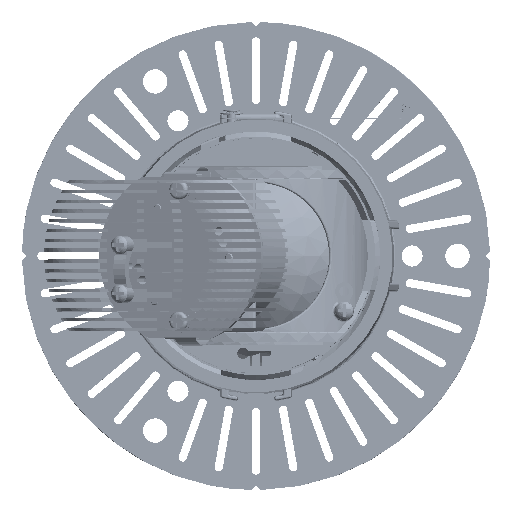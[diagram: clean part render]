
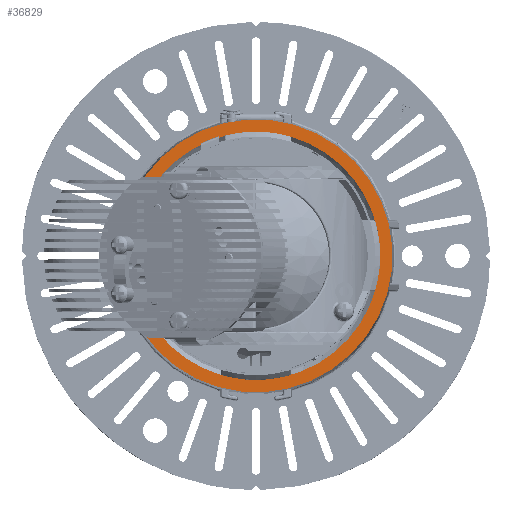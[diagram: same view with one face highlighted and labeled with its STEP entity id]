
A CAD part, top view. The second image highlights one B-rep face of the part: STEP entity #36829.
In plain terms, the highlighted planar face has unit normal (0, 0, 1).
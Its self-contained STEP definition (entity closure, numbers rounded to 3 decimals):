
#26856=CARTESIAN_POINT('Vertex',(11.827,40.309,29.5)) ;
#26859=CARTESIAN_POINT('Axis2P3D Location',(0.,0.,29.5)) ;
#26863=CARTESIAN_POINT('Vertex',(-11.827,-40.309,29.5)) ;
#28401=CARTESIAN_POINT('Axis2P3D Location',(0.,0.,29.5)) ;
#36760=CARTESIAN_POINT('Axis2P3D Location',(27.011,27.011,29.5)) ;
#36770=CARTESIAN_POINT('Control Point',(-10.755,-36.655,29.5)) ;
#36771=CARTESIAN_POINT('Control Point',(-14.241,-35.632,29.5)) ;
#36772=CARTESIAN_POINT('Control Point',(-17.606,-34.194,29.5)) ;
#36773=CARTESIAN_POINT('Control Point',(-20.784,-32.362,29.5)) ;
#36774=CARTESIAN_POINT('Control Point',(-26.642,-27.976,29.5)) ;
#36775=CARTESIAN_POINT('Control Point',(-31.308,-22.339,29.5)) ;
#36776=CARTESIAN_POINT('Control Point',(-33.294,-19.254,29.5)) ;
#36777=CARTESIAN_POINT('Control Point',(-36.494,-12.673,29.5)) ;
#36778=CARTESIAN_POINT('Control Point',(-38.062,-5.525,29.5)) ;
#36779=CARTESIAN_POINT('Control Point',(-38.415,-1.874,29.5)) ;
#36780=CARTESIAN_POINT('Control Point',(-38.247,5.442,29.5)) ;
#36781=CARTESIAN_POINT('Control Point',(-36.368,12.515,29.5)) ;
#36782=CARTESIAN_POINT('Control Point',(-35.01,15.923,29.5)) ;
#36783=CARTESIAN_POINT('Control Point',(-31.511,22.35,29.5)) ;
#36784=CARTESIAN_POINT('Control Point',(-26.602,27.777,29.5)) ;
#36785=CARTESIAN_POINT('Control Point',(-23.834,30.185,29.5)) ;
#36786=CARTESIAN_POINT('Control Point',(-17.781,34.297,29.5)) ;
#36787=CARTESIAN_POINT('Control Point',(-10.932,36.874,29.5)) ;
#36788=CARTESIAN_POINT('Control Point',(-7.369,37.748,29.5)) ;
#36789=CARTESIAN_POINT('Control Point',(-1.536,38.458,29.5)) ;
#36790=CARTESIAN_POINT('Control Point',(4.299,38.053,29.5)) ;
#36791=CARTESIAN_POINT('Control Point',(6.486,37.742,29.5)) ;
#36792=CARTESIAN_POINT('Control Point',(8.643,37.274,29.5)) ;
#36793=CARTESIAN_POINT('Control Point',(10.755,36.655,29.5)) ;
#36794=CARTESIAN_POINT('Vertex',(-10.755,-36.655,29.5)) ;
#36796=CARTESIAN_POINT('Vertex',(10.755,36.655,29.5)) ;
#36800=CARTESIAN_POINT('Control Point',(10.755,36.655,29.5)) ;
#36801=CARTESIAN_POINT('Control Point',(14.241,35.632,29.5)) ;
#36802=CARTESIAN_POINT('Control Point',(17.606,34.194,29.5)) ;
#36803=CARTESIAN_POINT('Control Point',(20.784,32.362,29.5)) ;
#36804=CARTESIAN_POINT('Control Point',(26.642,27.976,29.5)) ;
#36805=CARTESIAN_POINT('Control Point',(31.308,22.339,29.5)) ;
#36806=CARTESIAN_POINT('Control Point',(33.294,19.254,29.5)) ;
#36807=CARTESIAN_POINT('Control Point',(36.494,12.673,29.5)) ;
#36808=CARTESIAN_POINT('Control Point',(38.062,5.525,29.5)) ;
#36809=CARTESIAN_POINT('Control Point',(38.415,1.874,29.5)) ;
#36810=CARTESIAN_POINT('Control Point',(38.247,-5.442,29.5)) ;
#36811=CARTESIAN_POINT('Control Point',(36.368,-12.515,29.5)) ;
#36812=CARTESIAN_POINT('Control Point',(35.01,-15.923,29.5)) ;
#36813=CARTESIAN_POINT('Control Point',(31.511,-22.35,29.5)) ;
#36814=CARTESIAN_POINT('Control Point',(26.602,-27.777,29.5)) ;
#36815=CARTESIAN_POINT('Control Point',(23.834,-30.185,29.5)) ;
#36816=CARTESIAN_POINT('Control Point',(17.781,-34.297,29.5)) ;
#36817=CARTESIAN_POINT('Control Point',(10.932,-36.874,29.5)) ;
#36818=CARTESIAN_POINT('Control Point',(7.369,-37.748,29.5)) ;
#36819=CARTESIAN_POINT('Control Point',(1.536,-38.458,29.5)) ;
#36820=CARTESIAN_POINT('Control Point',(-4.299,-38.053,29.5)) ;
#36821=CARTESIAN_POINT('Control Point',(-6.486,-37.742,29.5)) ;
#36822=CARTESIAN_POINT('Control Point',(-8.643,-37.274,29.5)) ;
#36823=CARTESIAN_POINT('Control Point',(-10.755,-36.655,29.5)) ;
#26860=DIRECTION('Axis2P3D Direction',(0.,0.,-1.)) ;
#28402=DIRECTION('Axis2P3D Direction',(-0.,0.,-1.)) ;
#36761=DIRECTION('Axis2P3D Direction',(0.,0.,1.)) ;
#36762=DIRECTION('Axis2P3D XDirection',(-0.707,0.707,0.)) ;
#26861=AXIS2_PLACEMENT_3D('Circle Axis2P3D',#26859,#26860,$) ;
#28403=AXIS2_PLACEMENT_3D('Circle Axis2P3D',#28401,#28402,$) ;
#36763=AXIS2_PLACEMENT_3D('Plane Axis2P3D',#36760,#36761,#36762) ;
#36766=ORIENTED_EDGE('',*,*,#26865,.T.) ;
#36767=ORIENTED_EDGE('',*,*,#28405,.T.) ;
#36826=ORIENTED_EDGE('',*,*,#36798,.T.) ;
#36827=ORIENTED_EDGE('',*,*,#36824,.T.) ;
#36828=FACE_BOUND('',#36825,.T.) ;
#36829=ADVANCED_FACE('0\\MANIFOLD_SOLID_BREP #18612',(#36768,#36828),#36764,.T.) ;
#36769=B_SPLINE_CURVE_WITH_KNOTS('',5,(#36770,#36771,#36772,#36773,#36774,#36775,#36776,#36777,#36778,#36779,#36780,#36781,#36782,#36783,#36784,#36785,#36786,#36787,#36788,#36789,#36790,#36791,#36792,#36793),.UNSPECIFIED.,.F.,.U.,(6,3,3,3,3,3,3,6),(0.,25.692,51.384,77.076,102.768,128.46,154.153,169.717),.UNSPECIFIED.) ;
#36799=B_SPLINE_CURVE_WITH_KNOTS('',5,(#36800,#36801,#36802,#36803,#36804,#36805,#36806,#36807,#36808,#36809,#36810,#36811,#36812,#36813,#36814,#36815,#36816,#36817,#36818,#36819,#36820,#36821,#36822,#36823),.UNSPECIFIED.,.F.,.U.,(6,3,3,3,3,3,3,6),(0.,25.692,51.384,77.076,102.768,128.46,154.153,169.717),.UNSPECIFIED.) ;
#26862=CIRCLE('generated circle',#26861,42.008) ;
#28404=CIRCLE('generated circle',#28403,42.008) ;
#26865=EDGE_CURVE('',#26864,#26857,#26862,.F.) ;
#28405=EDGE_CURVE('',#26857,#26864,#28404,.F.) ;
#36798=EDGE_CURVE('',#36795,#36797,#36769,.T.) ;
#36824=EDGE_CURVE('',#36797,#36795,#36799,.T.) ;
#36765=EDGE_LOOP('',(#36766,#36767)) ;
#36825=EDGE_LOOP('',(#36826,#36827)) ;
#36768=FACE_OUTER_BOUND('',#36765,.T.) ;
#36764=PLANE('',#36763) ;
#26857=VERTEX_POINT('',#26856) ;
#26864=VERTEX_POINT('',#26863) ;
#36795=VERTEX_POINT('',#36794) ;
#36797=VERTEX_POINT('',#36796) ;
